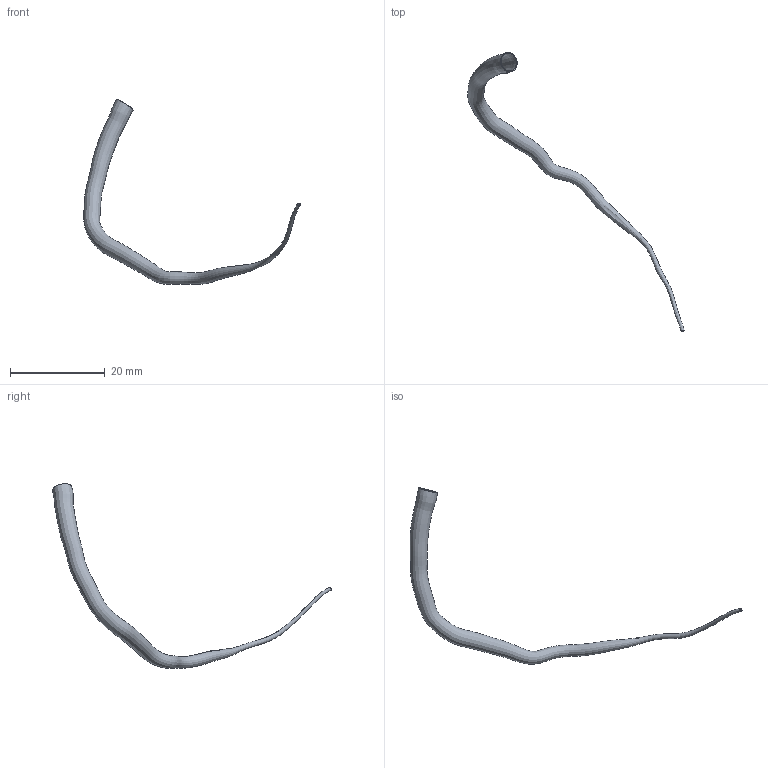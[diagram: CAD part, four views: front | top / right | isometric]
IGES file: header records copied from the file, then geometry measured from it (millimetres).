
Global section: file name: C:\Documents and Settings\Administrator\Desktop\FDA-Pig\Domestic LCA\Pig_000010\lad.seg.ed.igs; native system: Rhinoceros ( May 19 2006 ); preprocessor: Trout Lake IGES 012 May 19 2006; date: 111205.183733; units: centimetre
Bounding box: 45.72 x 58.9 x 39.01 mm (x, y, z)
Surface area: 1590.5 mm2 (no closed solid volume)
Topology: 0 solids, 0 shells, 4 faces, 13 edges, 10 vertices
Faces by surface type: bspline 4
